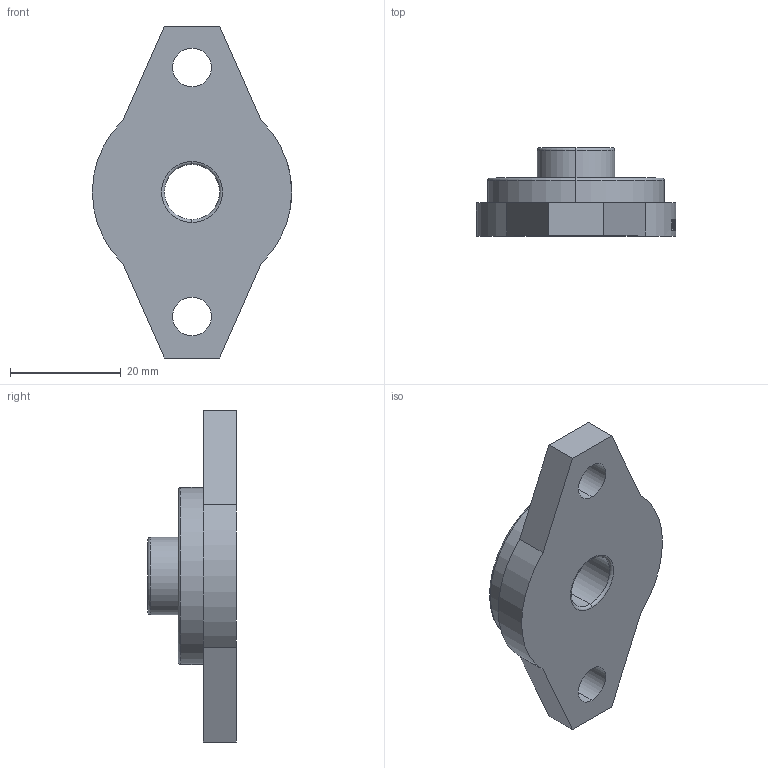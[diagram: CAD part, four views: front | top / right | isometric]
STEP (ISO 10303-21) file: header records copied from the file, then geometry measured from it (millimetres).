
FILE_DESCRIPTION (( 'STEP AP203' ), '1' );
FILE_NAME ('10mm.STEP', '2017-08-14T11:03:12', ( '' ), ( '' ), 'SwSTEP 2.0', 'SolidWorks 2014', '' );
FILE_SCHEMA (( 'CONFIG_CONTROL_DESIGN' ));
Length unit declared in the file: millimetre
Products named in the file (1): 10mm
Bounding box: 36 x 16 x 60 mm (x, y, z)
Volume: 9860 mm3; surface area: 5451.7 mm2
Topology: 1 solids, 1 shells, 119 faces, 311 edges, 204 vertices
Faces by surface type: plane 56, bspline 32, cylinder 21, torus 10
Entity records: 7276 total; most frequent: CARTESIAN_POINT 4497, ORIENTED_EDGE 622, DIRECTION 458, EDGE_CURVE 311, VERTEX_POINT 204, AXIS2_PLACEMENT_3D 174, EDGE_LOOP 135, ADVANCED_FACE 119
